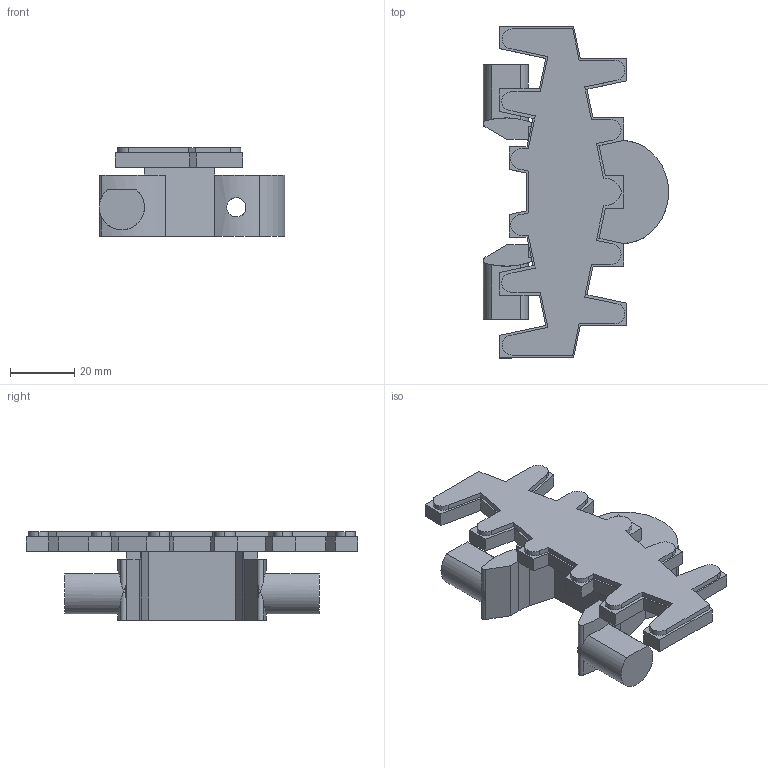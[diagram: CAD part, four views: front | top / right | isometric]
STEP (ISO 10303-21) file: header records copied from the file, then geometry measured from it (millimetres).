
FILE_DESCRIPTION (( 'STEP AP214' ), '1' );
FILE_NAME ('FCST 5.step', '2017-04-04T13:29:24', ( '' ), ( '' ), 'SwSTEP 2.0', 'SolidWorks 2015', '' );
FILE_SCHEMA (( 'AUTOMOTIVE_DESIGN' ));
Length unit declared in the file: millimetre
Products named in the file (1): FCST 5
Bounding box: 57.5 x 103 x 27.5 mm (x, y, z)
Volume: 43960.7 mm3; surface area: 15928.7 mm2
Topology: 1 solids, 1 shells, 140 faces, 403 edges, 266 vertices
Faces by surface type: plane 105, cylinder 35
Entity records: 5421 total; most frequent: CARTESIAN_POINT 1105, ORIENTED_EDGE 806, DIRECTION 735, EDGE_CURVE 403, LINE 319, VECTOR 319, VERTEX_POINT 266, AXIS2_PLACEMENT_3D 208
